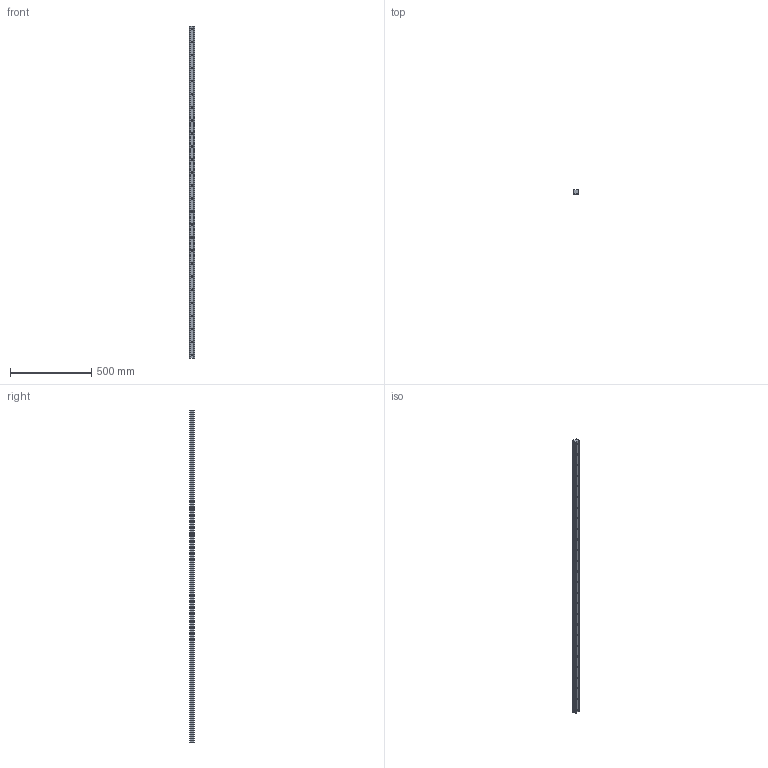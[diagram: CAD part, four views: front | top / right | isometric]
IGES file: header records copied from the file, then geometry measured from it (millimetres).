
Start section: SolidWorks IGES file using analytic representation for surfaces
Global section: file name: C:\Users\IanO\Desktop\Temp File\GENERAL\L1016_v2\L1016.RF35_v2\L1016.RF35_v2_20190612_IGES\L1016.RF35-2040.igs; native system: SolidWorks 2017; preprocessor: SolidWorks 2017; author: IanO; date: 190613.172923; units: millimetre
Bounding box: 34 x 26 x 2040 mm (x, y, z)
Surface area: 266306.4 mm2 (no closed solid volume)
Topology: 0 solids, 0 shells, 208 faces, 3288 edges, 3236 vertices
Faces by surface type: revolution 160, bspline 48
